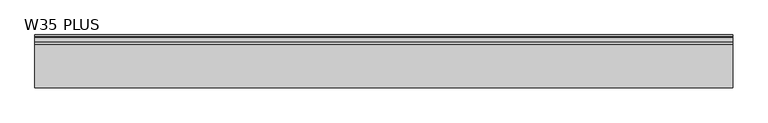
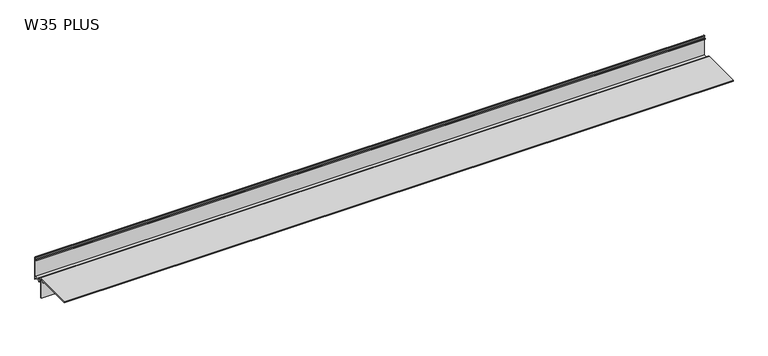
"""IFC4 building model written with IfcOpenShell, lengths in millimetres: proxy geometry, W35 PLUS Profil okapowy prosty z rynną : W35 PLUS."""

from ifc_helpers import new_model, si_unit, point, frame, frame_2d, origin, place, context, project, spatial, polyline, circle_curve, trimmed, segment, composite_curve, outline, extrude, source, transform, mapped, element, save


def w35_plus_8190e263(model_context):
    return source(origin(), model_context, "Body", "SweptSolid", [
        extrude(outline(composite_curve([segment(polyline([(26.9999998, -2.4508786), (26.9999998, -1.1563894)]), True, "CONTINUOUS"), segment(trimmed(circle_curve(frame_2d((27.1562498, -3.451076)), 2.3000001), [point((26.9999998, -1.1563894))], [point((29.4562499, -3.451076))], False, "CARTESIAN"), True, "CONTINUOUS"), segment(polyline([(29.4562499, -3.451076), (29.4562499, -49.8472122), (27.9562498, -48.3472123), (27.9562498, -44.6936589), (15.0562498, -44.6936589), (15.0562498, -46.7179229), (13.0319857, -44.6936591), (8.3562498, -44.6936591), (8.3562498, -77.3936589), (6.65625, -77.3936589), (6.65625, -37.8936589), (1.65625, -37.8936589), (1.65625, -41.0936589), (0.15625, -41.0936589), (0.15625, -37.8936589), (-73.3437501, -37.8936589), (-73.3437501, -36.1936589), (11.3662498, -36.1936589)]), True, "CONTINUOUS"), segment(trimmed(circle_curve(frame_2d((11.3662498, -40.1936589)), 4.0), [point((11.3662498, -36.1936589))], [point((15.3045235, -39.4936589))], False, "CARTESIAN"), True, "CONTINUOUS"), segment(polyline([(15.3045235, -39.4936589), (13.7662498, -39.4936589)]), True, "CONTINUOUS"), segment(trimmed(circle_curve(frame_2d((11.3662498, -40.1936589)), 2.5), [point((13.7662498, -39.4936589))], [point((11.3662498, -37.6936589))], True, "CARTESIAN"), True, "CONTINUOUS"), segment(polyline([(11.3662498, -37.6936589), (8.3562498, -37.6936589), (8.3562498, -42.9936588), (27.7562498, -42.9936588), (27.7562498, -7.8936589), (25.2562498, -7.8936589), (25.2562498, -6.1936589), (27.7562498, -6.1936589), (27.7562498, -2.9804106), (26.9999998, -2.4508786)]), True, "CONTINUOUS")], self_intersect=False)), frame((0.0, 0.0, 0.0), z_axis=(1.0, 0.0, 0.0), x_axis=(0.0, 1.0, 0.0)), (0.0, 0.0, 1.0), 1360.0),
    ])


if __name__ == "__main__":
    model = new_model("IFC4")
    model_context = context("Model", 3, world=origin())
    ifc_project = project(units=[si_unit("LENGTHUNIT", "METRE", prefix="MILLI")], contexts=[model_context])
    site = spatial("IfcSite", under=ifc_project)
    building = spatial("IfcBuilding", under=site)
    placement = place(None, origin())
    w35_plus_shape = w35_plus_8190e263(model_context)
    element("IfcBuildingElementProxy", 1, Name="W35 PLUS Profil okapowy prosty z rynną : W35 PLUS", ObjectType="W35 PLUS Profil okapowy prosty z rynną : W35 PLUS", at=placement, inside=building, context=model_context, shape_type="MappedRepresentation", body=[
        mapped(w35_plus_shape, transform((0.0, 0.0, 0.0), x_axis=(1.0, 0.0, 0.0), y_axis=(0.0, 1.0, 0.0), z_axis=(0.0, 0.0, 1.0))),
    ])
    save(model, "model.ifc")
